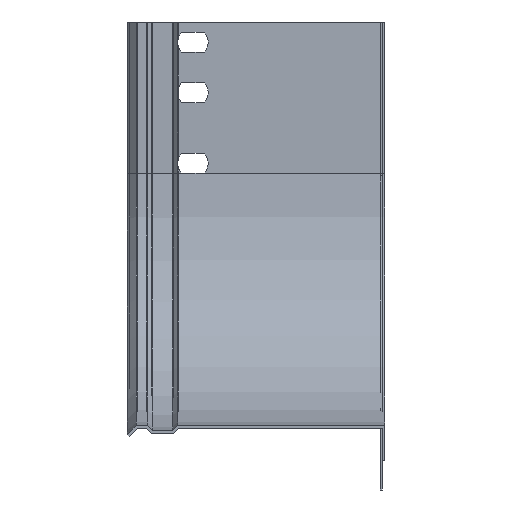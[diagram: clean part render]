
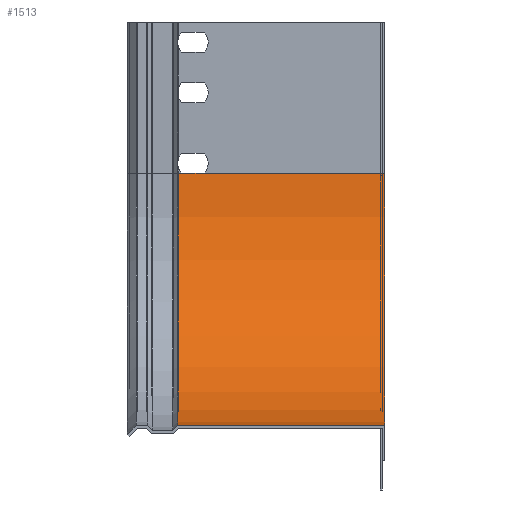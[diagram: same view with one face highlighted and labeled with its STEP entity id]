
A CAD part, left-side view. The second image highlights one B-rep face of the part: STEP entity #1513.
In plain terms, the highlighted cylindrical face has radius 100 mm (diameter 200 mm), a partial arc.
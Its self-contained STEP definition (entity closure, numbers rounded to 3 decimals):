
#50 = EDGE_CURVE ( 'NONE', #2529, #3741, #2215, .T. ) ;
#96 = CARTESIAN_POINT ( 'NONE',  ( -60., 82., 60. ) ) ;
#124 = DIRECTION ( 'NONE',  ( 0., -1., 0. ) ) ;
#145 = VERTEX_POINT ( 'NONE', #3588 ) ;
#147 = EDGE_CURVE ( 'NONE', #4283, #364, #2734, .T. ) ;
#172 = VERTEX_POINT ( 'NONE', #2376 ) ;
#196 = DIRECTION ( 'NONE',  ( 0., -1., 0. ) ) ;
#207 = VECTOR ( 'NONE', #2191, 1000. ) ;
#285 = VECTOR ( 'NONE', #3093, 1000. ) ;
#303 = AXIS2_PLACEMENT_3D ( 'NONE', #4888, #3238, #1129 ) ;
#364 = VERTEX_POINT ( 'NONE', #1761 ) ;
#417 = EDGE_CURVE ( 'NONE', #172, #745, #3436, .T. ) ;
#620 = CARTESIAN_POINT ( 'NONE',  ( -60., 80.472, 160. ) ) ;
#630 = CARTESIAN_POINT ( 'NONE',  ( -160., 80.472, 60. ) ) ;
#679 = EDGE_LOOP ( 'NONE', ( #2312, #5041, #4541, #2362, #4651, #2484, #1857, #3435 ) ) ;
#745 = VERTEX_POINT ( 'NONE', #852 ) ;
#771 = DIRECTION ( 'NONE',  ( 0., 1., 0. ) ) ;
#840 = CYLINDRICAL_SURFACE ( 'NONE', #303, 100. ) ;
#852 = CARTESIAN_POINT ( 'NONE',  ( -60., 71.528, 160. ) ) ;
#934 = DIRECTION ( 'NONE',  ( 0., 1., 0. ) ) ;
#961 = LINE ( 'NONE', #2594, #207 ) ;
#1062 = AXIS2_PLACEMENT_3D ( 'NONE', #1502, #196, #2648 ) ;
#1129 = DIRECTION ( 'NONE',  ( 0., 0., -1. ) ) ;
#1290 = DIRECTION ( 'NONE',  ( 0., 0., -1. ) ) ;
#1357 = VERTEX_POINT ( 'NONE', #630 ) ;
#1502 = CARTESIAN_POINT ( 'NONE',  ( -60., 0., 60. ) ) ;
#1513 = ADVANCED_FACE ( 'NONE', ( #1635 ), #840, .F. ) ;
#1635 = FACE_OUTER_BOUND ( 'NONE', #679, .T. ) ;
#1761 = CARTESIAN_POINT ( 'NONE',  ( -60., 82., 160. ) ) ;
#1857 = ORIENTED_EDGE ( 'NONE', *, *, #147, .F. ) ;
#1868 = EDGE_CURVE ( 'NONE', #745, #4283, #2218, .T. ) ;
#1878 = LINE ( 'NONE', #1903, #3742 ) ;
#1894 = EDGE_CURVE ( 'NONE', #172, #2529, #4071, .T. ) ;
#1903 = CARTESIAN_POINT ( 'NONE',  ( -160., 0., 60. ) ) ;
#2146 = VECTOR ( 'NONE', #3528, 1000. ) ;
#2191 = DIRECTION ( 'NONE',  ( 0., 1., 0. ) ) ;
#2215 = LINE ( 'NONE', #3440, #285 ) ;
#2218 = LINE ( 'NONE', #620, #2146 ) ;
#2312 = ORIENTED_EDGE ( 'NONE', *, *, #417, .F. ) ;
#2355 = CARTESIAN_POINT ( 'NONE',  ( -160., 0., 60. ) ) ;
#2362 = ORIENTED_EDGE ( 'NONE', *, *, #2855, .T. ) ;
#2376 = CARTESIAN_POINT ( 'NONE',  ( -60., 0., 160. ) ) ;
#2484 = ORIENTED_EDGE ( 'NONE', *, *, #4205, .F. ) ;
#2520 = AXIS2_PLACEMENT_3D ( 'NONE', #96, #124, #1290 ) ;
#2529 = VERTEX_POINT ( 'NONE', #2355 ) ;
#2594 = CARTESIAN_POINT ( 'NONE',  ( -160., 80.472, 60. ) ) ;
#2648 = DIRECTION ( 'NONE',  ( 0., 0., -1. ) ) ;
#2734 = LINE ( 'NONE', #4828, #4301 ) ;
#2855 = EDGE_CURVE ( 'NONE', #3741, #1357, #961, .T. ) ;
#3093 = DIRECTION ( 'NONE',  ( 0., 1., 0. ) ) ;
#3232 = DIRECTION ( 'NONE',  ( 0., 1., 0. ) ) ;
#3238 = DIRECTION ( 'NONE',  ( 0., -1., 0. ) ) ;
#3371 = VECTOR ( 'NONE', #934, 1000. ) ;
#3435 = ORIENTED_EDGE ( 'NONE', *, *, #1868, .F. ) ;
#3436 = LINE ( 'NONE', #4693, #3371 ) ;
#3440 = CARTESIAN_POINT ( 'NONE',  ( -160., 0., 60. ) ) ;
#3528 = DIRECTION ( 'NONE',  ( 0., 1., 0. ) ) ;
#3588 = CARTESIAN_POINT ( 'NONE',  ( -160., 82., 60. ) ) ;
#3741 = VERTEX_POINT ( 'NONE', #3883 ) ;
#3742 = VECTOR ( 'NONE', #771, 1000. ) ;
#3883 = CARTESIAN_POINT ( 'NONE',  ( -160., 71.528, 60. ) ) ;
#4071 = CIRCLE ( 'NONE', #1062, 100. ) ;
#4205 = EDGE_CURVE ( 'NONE', #364, #145, #4504, .T. ) ;
#4283 = VERTEX_POINT ( 'NONE', #4383 ) ;
#4301 = VECTOR ( 'NONE', #3232, 1000. ) ;
#4309 = EDGE_CURVE ( 'NONE', #1357, #145, #1878, .T. ) ;
#4383 = CARTESIAN_POINT ( 'NONE',  ( -60., 80.472, 160. ) ) ;
#4504 = CIRCLE ( 'NONE', #2520, 100. ) ;
#4541 = ORIENTED_EDGE ( 'NONE', *, *, #50, .T. ) ;
#4651 = ORIENTED_EDGE ( 'NONE', *, *, #4309, .T. ) ;
#4693 = CARTESIAN_POINT ( 'NONE',  ( -60., 0., 160. ) ) ;
#4828 = CARTESIAN_POINT ( 'NONE',  ( -60., 0., 160. ) ) ;
#4888 = CARTESIAN_POINT ( 'NONE',  ( -60., 0., 60. ) ) ;
#5041 = ORIENTED_EDGE ( 'NONE', *, *, #1894, .T. ) ;
